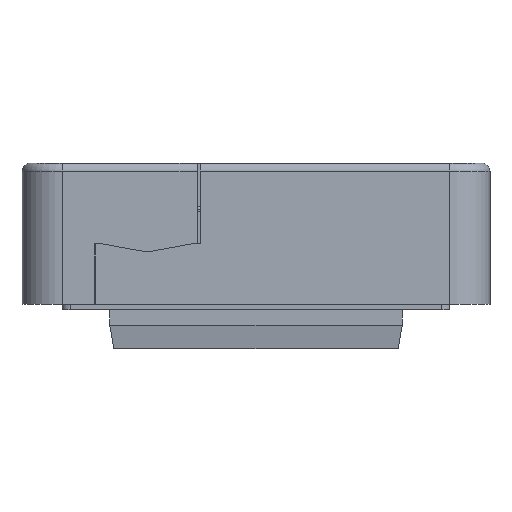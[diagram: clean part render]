
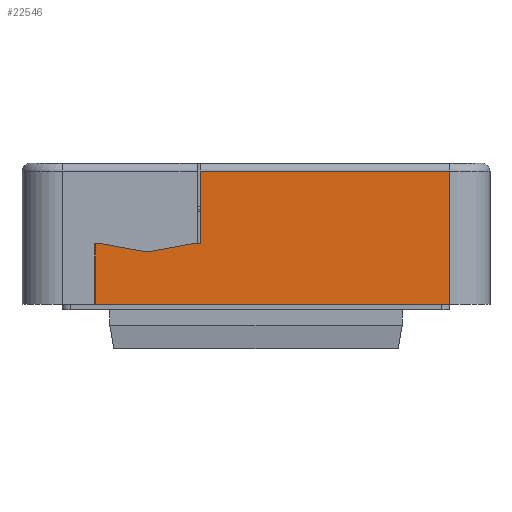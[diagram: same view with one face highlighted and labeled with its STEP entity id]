
A CAD part, left-side view. The second image highlights one B-rep face of the part: STEP entity #22546.
In plain terms, the highlighted planar face has unit normal (-1, 0, 0) as drawn and (1, 0, 0) by its records, which use the part's own axes.
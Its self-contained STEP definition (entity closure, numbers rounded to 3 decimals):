
#2402=FACE_OUTER_BOUND('',#3725,.T.);
#3725=EDGE_LOOP('',(#18176,#18177,#18178,#18179,#18180,#18181,#18182,#18183,
#18184));
#5691=LINE('',#35726,#7969);
#5694=LINE('',#35734,#7972);
#5695=LINE('',#35736,#7973);
#5696=LINE('',#35738,#7974);
#5697=LINE('',#35740,#7975);
#5698=LINE('',#35742,#7976);
#5699=LINE('',#35744,#7977);
#5700=LINE('',#35746,#7978);
#5701=LINE('',#35747,#7979);
#7969=VECTOR('',#28079,10.);
#7972=VECTOR('',#28086,10.);
#7973=VECTOR('',#28087,10.);
#7974=VECTOR('',#28088,10.);
#7975=VECTOR('',#28089,10.);
#7976=VECTOR('',#28090,10.);
#7977=VECTOR('',#28091,10.);
#7978=VECTOR('',#28092,10.);
#7979=VECTOR('',#28093,10.);
#10170=VERTEX_POINT('',#35723);
#10171=VERTEX_POINT('',#35725);
#10174=VERTEX_POINT('',#35733);
#10175=VERTEX_POINT('',#35735);
#10176=VERTEX_POINT('',#35737);
#10177=VERTEX_POINT('',#35739);
#10178=VERTEX_POINT('',#35741);
#10179=VERTEX_POINT('',#35743);
#10180=VERTEX_POINT('',#35745);
#13011=EDGE_CURVE('',#10171,#10170,#5691,.T.);
#13015=EDGE_CURVE('',#10170,#10174,#5694,.T.);
#13016=EDGE_CURVE('',#10174,#10175,#5695,.T.);
#13017=EDGE_CURVE('',#10175,#10176,#5696,.T.);
#13018=EDGE_CURVE('',#10176,#10177,#5697,.T.);
#13019=EDGE_CURVE('',#10177,#10178,#5698,.T.);
#13020=EDGE_CURVE('',#10178,#10179,#5699,.T.);
#13021=EDGE_CURVE('',#10180,#10179,#5700,.T.);
#13022=EDGE_CURVE('',#10171,#10180,#5701,.T.);
#18176=ORIENTED_EDGE('',*,*,#13011,.T.);
#18177=ORIENTED_EDGE('',*,*,#13015,.T.);
#18178=ORIENTED_EDGE('',*,*,#13016,.T.);
#18179=ORIENTED_EDGE('',*,*,#13017,.T.);
#18180=ORIENTED_EDGE('',*,*,#13018,.T.);
#18181=ORIENTED_EDGE('',*,*,#13019,.T.);
#18182=ORIENTED_EDGE('',*,*,#13020,.T.);
#18183=ORIENTED_EDGE('',*,*,#13021,.F.);
#18184=ORIENTED_EDGE('',*,*,#13022,.F.);
#21508=PLANE('',#24148);
#22546=ADVANCED_FACE('',(#2402),#21508,.T.);
#24148=AXIS2_PLACEMENT_3D('',#35732,#28084,#28085);
#28079=DIRECTION('',(0.,0.,1.));
#28084=DIRECTION('center_axis',(1.,0.,0.));
#28085=DIRECTION('ref_axis',(0.,0.,-1.));
#28086=DIRECTION('',(0.,1.,0.));
#28087=DIRECTION('',(0.,0.984,0.179));
#28088=DIRECTION('',(0.,0.984,-0.179));
#28089=DIRECTION('',(0.,1.,0.));
#28090=DIRECTION('',(0.,0.,1.));
#28091=DIRECTION('',(0.,-1.,0.));
#28092=DIRECTION('',(0.,0.,1.));
#28093=DIRECTION('',(0.,-1.,0.));
#35723=CARTESIAN_POINT('',(50.5,6.9,8.5));
#35725=CARTESIAN_POINT('',(50.5,6.9,-0.5));
#35726=CARTESIAN_POINT('',(50.5,6.9,1.658));
#35732=CARTESIAN_POINT('Origin',(50.5,29.,0.));
#35733=CARTESIAN_POINT('',(50.5,8.,8.5));
#35734=CARTESIAN_POINT('',(50.5,24.5,8.5));
#35735=CARTESIAN_POINT('',(50.5,13.5,9.5));
#35736=CARTESIAN_POINT('',(50.5,20.166,10.712));
#35737=CARTESIAN_POINT('',(50.5,19.,8.5));
#35738=CARTESIAN_POINT('',(50.5,24.588,7.484));
#35739=CARTESIAN_POINT('',(50.5,19.9,8.5));
#35740=CARTESIAN_POINT('',(50.5,24.5,8.5));
#35741=CARTESIAN_POINT('',(50.5,19.9,16.));
#35742=CARTESIAN_POINT('',(50.5,19.9,5.696));
#35743=CARTESIAN_POINT('',(50.5,-24.,16.));
#35744=CARTESIAN_POINT('',(50.5,5.081,16.));
#35745=CARTESIAN_POINT('',(50.5,-24.,-0.5));
#35746=CARTESIAN_POINT('',(50.5,-24.,0.));
#35747=CARTESIAN_POINT('',(50.5,5.834,-0.5));
